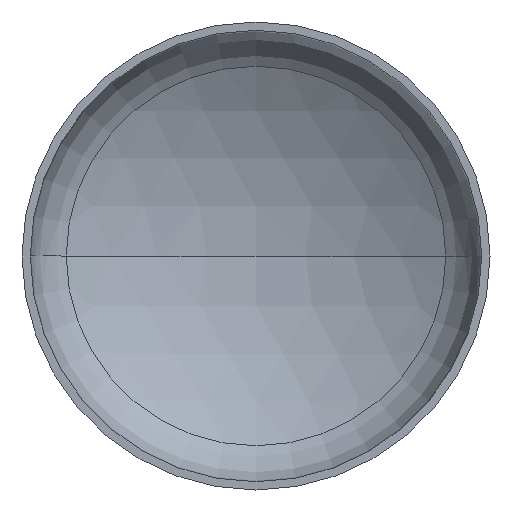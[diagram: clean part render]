
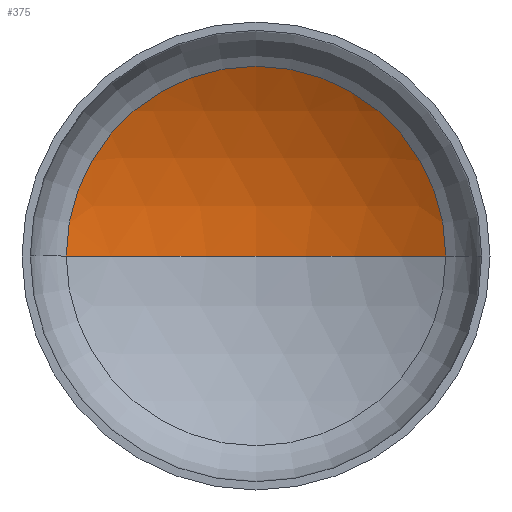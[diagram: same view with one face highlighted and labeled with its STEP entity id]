
A CAD part, front view. The second image highlights one B-rep face of the part: STEP entity #375.
In plain terms, the highlighted spherical face has radius 720 mm.
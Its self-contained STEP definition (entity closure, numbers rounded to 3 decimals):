
#5 = AXIS2_PLACEMENT_3D ( 'NONE', #125, #126, #97 ) ;
#6 = CARTESIAN_POINT ( 'NONE',  ( -364.966, 175.681, 0. ) ) ;
#13 = AXIS2_PLACEMENT_3D ( 'NONE', #131, #307, #360 ) ;
#16 = AXIS2_PLACEMENT_3D ( 'NONE', #402, #263, #356 ) ;
#18 = EDGE_LOOP ( 'NONE', ( #151, #79, #57 ) ) ;
#57 = ORIENTED_EDGE ( 'NONE', *, *, #347, .T. ) ;
#59 = VERTEX_POINT ( 'NONE', #353 ) ;
#71 = CIRCLE ( 'NONE', #13, 720. ) ;
#79 = ORIENTED_EDGE ( 'NONE', *, *, #350, .T. ) ;
#97 = DIRECTION ( 'NONE',  ( -1., 0., 0. ) ) ;
#99 = VERTEX_POINT ( 'NONE', #197 ) ;
#125 = CARTESIAN_POINT ( 'NONE',  ( 0., -444.964, 0. ) ) ;
#126 = DIRECTION ( 'NONE',  ( 0., 0., -1. ) ) ;
#129 = VERTEX_POINT ( 'NONE', #6 ) ;
#131 = CARTESIAN_POINT ( 'NONE',  ( 0., -444.964, 0. ) ) ;
#151 = ORIENTED_EDGE ( 'NONE', *, *, #396, .F. ) ;
#155 = SPHERICAL_SURFACE ( 'NONE', #5, 720. ) ;
#182 = CIRCLE ( 'NONE', #16, 364.966 ) ;
#197 = CARTESIAN_POINT ( 'NONE',  ( 0., 275.036, 0. ) ) ;
#247 = CARTESIAN_POINT ( 'NONE',  ( 0., -444.964, 0. ) ) ;
#259 = FACE_OUTER_BOUND ( 'NONE', #18, .T. ) ;
#263 = DIRECTION ( 'NONE',  ( 0., -1., 0. ) ) ;
#270 = DIRECTION ( 'NONE',  ( 1., 0., 0. ) ) ;
#299 = CIRCLE ( 'NONE', #309, 720. ) ;
#307 = DIRECTION ( 'NONE',  ( 0., 0., -1. ) ) ;
#309 = AXIS2_PLACEMENT_3D ( 'NONE', #247, #405, #270 ) ;
#347 = EDGE_CURVE ( 'NONE', #59, #129, #182, .T. ) ;
#350 = EDGE_CURVE ( 'NONE', #99, #59, #71, .T. ) ;
#353 = CARTESIAN_POINT ( 'NONE',  ( 364.966, 175.681, 0. ) ) ;
#356 = DIRECTION ( 'NONE',  ( 1., 0., 0. ) ) ;
#360 = DIRECTION ( 'NONE',  ( -1., 0., 0. ) ) ;
#375 = ADVANCED_FACE ( 'NONE', ( #259 ), #155, .F. ) ;
#396 = EDGE_CURVE ( 'NONE', #99, #129, #299, .T. ) ;
#402 = CARTESIAN_POINT ( 'NONE',  ( 0., 175.681, 0. ) ) ;
#405 = DIRECTION ( 'NONE',  ( 0., 0., 1. ) ) ;
